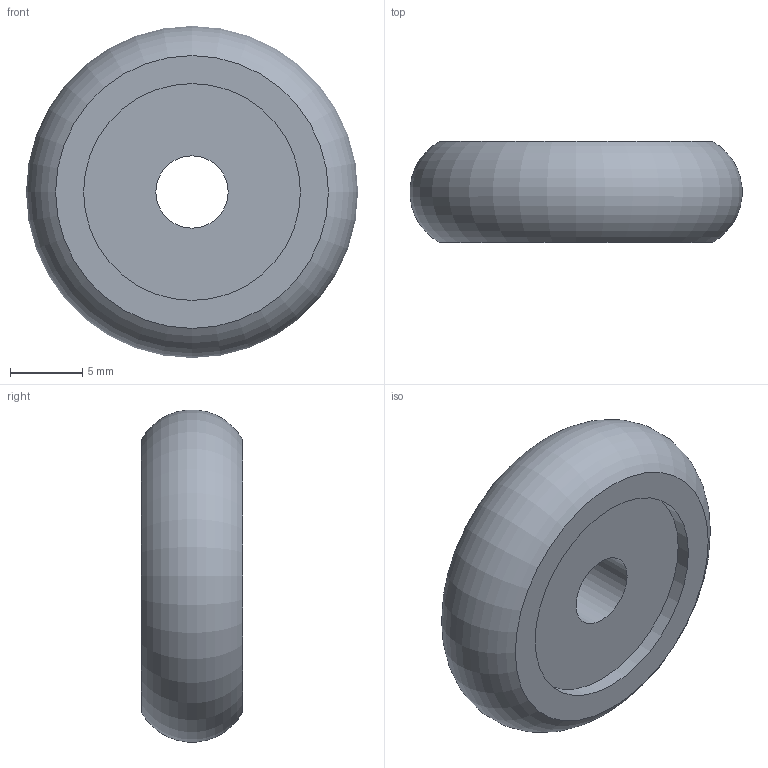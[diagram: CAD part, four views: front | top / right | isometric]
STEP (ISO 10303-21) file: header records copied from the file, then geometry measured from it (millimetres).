
FILE_DESCRIPTION(/* description */ (''),/* implementation_level */ '2;1');
FILE_NAME(/* name */ 'C:/Users/User/Desktop/BT0523 v3.step',/* time_stamp */ '2020-09-21T13:42:10+08:00',/* author */ (''),/* organization */ (''),/* preprocessor_version */ 'ST-DEVELOPER v18.1',/* originating_system */ 'Autodesk Translation Framework v9.3.0.1241',/* authorisation */ '');
FILE_SCHEMA (('AUTOMOTIVE_DESIGN { 1 0 10303 214 3 1 1 }'));
Length unit declared in the file: millimetre
Products named in the file (1): BT0523
Bounding box: 22.97 x 7 x 22.97 mm (x, y, z)
Volume: 2170.2 mm3; surface area: 1741.8 mm2
Topology: 2 solids, 2 shells, 8 faces, 12 edges, 8 vertices
Faces by surface type: plane 4, cylinder 3, torus 1
Full cylindrical faces by diameter (mm): 5 x1, 15 x2
Entity records: 232 total; most frequent: DIRECTION 39, CARTESIAN_POINT 29, ORIENTED_EDGE 24, AXIS2_PLACEMENT_3D 18, EDGE_LOOP 12, EDGE_CURVE 12, CIRCLE 9, FACE_OUTER_BOUND 8
